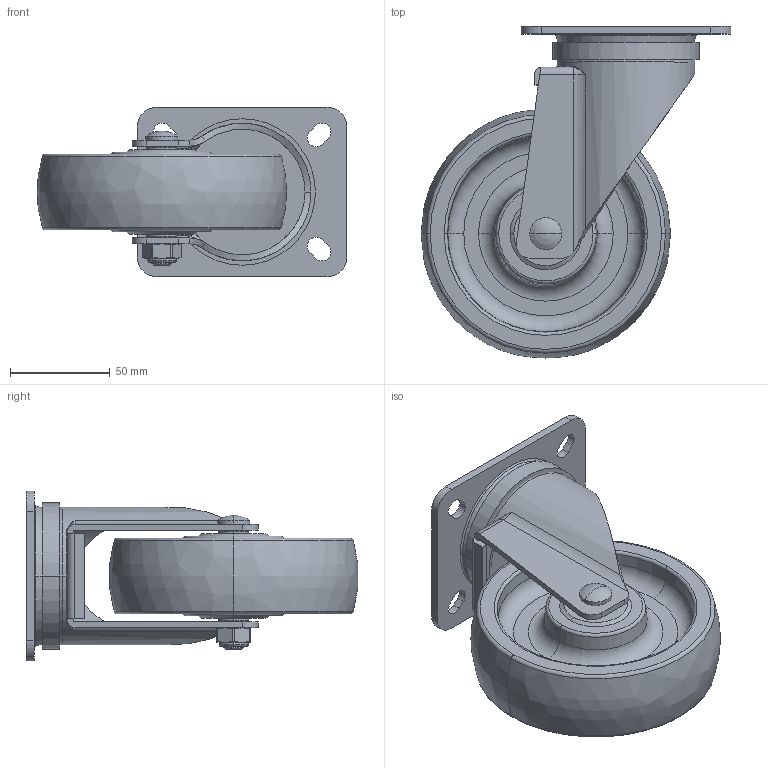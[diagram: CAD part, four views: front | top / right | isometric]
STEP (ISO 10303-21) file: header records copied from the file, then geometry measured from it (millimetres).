
FILE_DESCRIPTION((''),'2;1');
FILE_NAME('64115-645-06_ASM','2021-02-24T',('lenovo'),(''),'PRO/ENGINEER BY PARAMETRIC TECHNOLOGY CORPORATION, 2010280','PRO/ENGINEER BY PARAMETRIC TECHNOLOGY CORPORATION, 2010280','');
FILE_SCHEMA(('CONFIG_CONTROL_DESIGN'));
Length unit declared in the file: millimetre
Products named in the file (6): 640-01; 645-11; 645-806; 630-33A; 630-34; 64115-645-06_ASM
Assembly tree (5 placements, depth 2):
  64115-645-06_ASM
    640-01
    645-11
    645-806
    630-33A
    630-34
Bounding box: 155.2 x 166.2 x 85 mm (x, y, z)
Volume: 427268.1 mm3; surface area: 107016.1 mm2
Topology: 6 solids, 6 shells, 228 faces, 523 edges, 319 vertices
Faces by surface type: plane 65, cylinder 61, torus 48, cone 36, bspline 16, sphere 2
Entity records: 7576 total; most frequent: CARTESIAN_POINT 2207, DIRECTION 1183, ORIENTED_EDGE 1042, EDGE_CURVE 521, AXIS2_PLACEMENT_3D 497, VERTEX_POINT 319, CIRCLE 274, EDGE_LOOP 260
